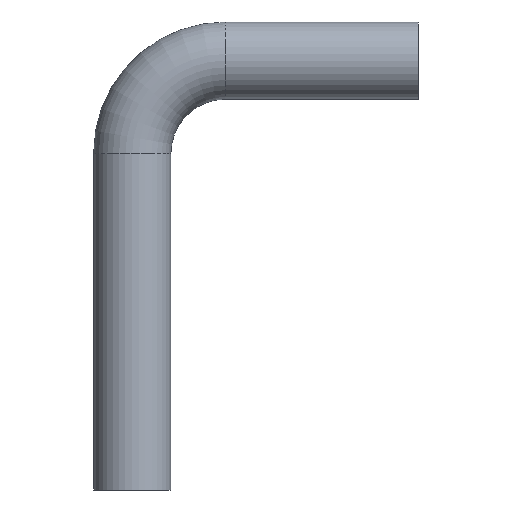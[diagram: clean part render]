
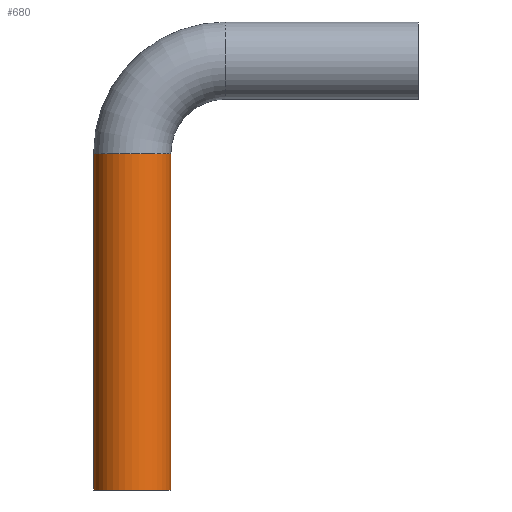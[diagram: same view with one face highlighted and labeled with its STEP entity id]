
A CAD part, front view. The second image highlights one B-rep face of the part: STEP entity #680.
In plain terms, the highlighted cylindrical face has radius 27 mm (diameter 54 mm), a partial arc.
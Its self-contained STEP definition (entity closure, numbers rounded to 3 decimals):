
#210=CARTESIAN_POINT('',(50.717,48.566,0.));
#220=DIRECTION('',(0.,0.,1.));
#230=DIRECTION('',(1.,0.,0.));
#240=AXIS2_PLACEMENT_3D('',#210,#220,#230);
#250=CIRCLE('',#240,27.);
#260=CARTESIAN_POINT('',(77.717,48.566,0.));
#270=VERTEX_POINT('',#260);
#280=CARTESIAN_POINT('',(23.717,48.566,0.));
#290=VERTEX_POINT('',#280);
#320=EDGE_CURVE('',#290,#270,#250,.T.);
#370=CARTESIAN_POINT('',(50.717,48.566,0.));
#380=DIRECTION('',(0.,0.,1.));
#390=DIRECTION('',(1.,0.,0.));
#400=AXIS2_PLACEMENT_3D('',#370,#380,#390);
#410=CYLINDRICAL_SURFACE('',#400,27.);
#420=CARTESIAN_POINT('',(77.717,48.566,0.));
#430=DIRECTION('',(0.,0.,1.));
#440=VECTOR('',#430,1.);
#450=LINE('',#420,#440);
#460=CARTESIAN_POINT('',(77.717,48.566,235.));
#470=VERTEX_POINT('',#460);
#480=EDGE_CURVE('',#270,#470,#450,.T.);
#490=ORIENTED_EDGE('',*,*,#480,.T.);
#500=ORIENTED_EDGE('',*,*,#320,.T.);
#510=CARTESIAN_POINT('',(23.717,48.566,0.));
#520=DIRECTION('',(0.,0.,1.));
#530=VECTOR('',#520,1.);
#540=LINE('',#510,#530);
#550=CARTESIAN_POINT('',(23.717,48.566,235.));
#560=VERTEX_POINT('',#550);
#570=EDGE_CURVE('',#290,#560,#540,.T.);
#580=ORIENTED_EDGE('',*,*,#570,.F.);
#590=CARTESIAN_POINT('',(50.717,48.566,235.));
#600=DIRECTION('',(0.,0.,1.));
#610=DIRECTION('',(1.,0.,0.));
#620=AXIS2_PLACEMENT_3D('',#590,#600,#610);
#630=CIRCLE('',#620,27.);
#640=EDGE_CURVE('',#560,#470,#630,.T.);
#650=ORIENTED_EDGE('',*,*,#640,.F.);
#660=EDGE_LOOP('',(#650,#580,#500,#490));
#670=FACE_OUTER_BOUND('',#660,.T.);
#680=ADVANCED_FACE('',(#670),#410,.T.);
